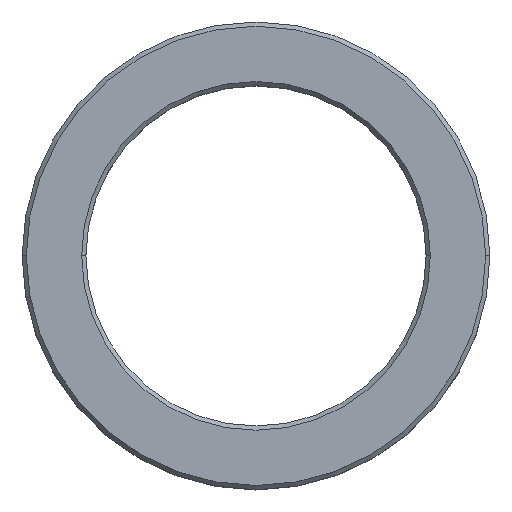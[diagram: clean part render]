
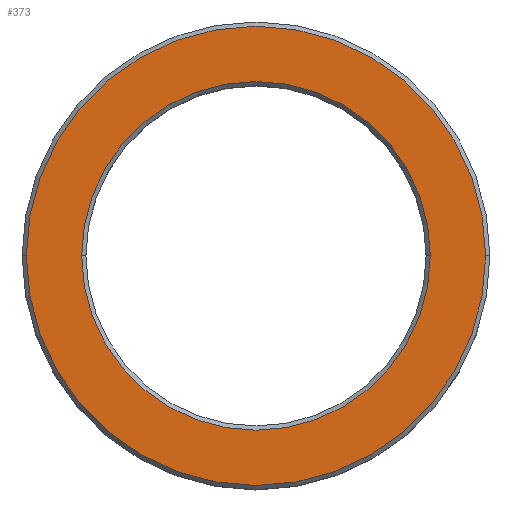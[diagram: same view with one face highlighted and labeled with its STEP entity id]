
A CAD part, top view. The second image highlights one B-rep face of the part: STEP entity #373.
In plain terms, the highlighted planar face has unit normal (0, 0, 1).
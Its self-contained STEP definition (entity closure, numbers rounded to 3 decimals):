
#19 = CARTESIAN_POINT ( 'NONE',  ( 0., 0., 17. ) ) ;
#32 = DIRECTION ( 'NONE',  ( 0., 0., -1. ) ) ;
#39 = AXIS2_PLACEMENT_3D ( 'NONE', #78, #107, #186 ) ;
#43 = CARTESIAN_POINT ( 'NONE',  ( -27., 0., 17. ) ) ;
#54 = EDGE_CURVE ( 'NONE', #128, #141, #312, .T. ) ;
#78 = CARTESIAN_POINT ( 'NONE',  ( 0., 0., 17. ) ) ;
#85 = DIRECTION ( 'NONE',  ( 1., 0., 0. ) ) ;
#92 = AXIS2_PLACEMENT_3D ( 'NONE', #378, #32, #420 ) ;
#97 = CIRCLE ( 'NONE', #382, 27. ) ;
#107 = DIRECTION ( 'NONE',  ( 0., 0., 1. ) ) ;
#113 = FACE_OUTER_BOUND ( 'NONE', #170, .T. ) ;
#121 = ORIENTED_EDGE ( 'NONE', *, *, #283, .T. ) ;
#125 = CARTESIAN_POINT ( 'NONE',  ( 0., 0., 17. ) ) ;
#128 = VERTEX_POINT ( 'NONE', #371 ) ;
#131 = ORIENTED_EDGE ( 'NONE', *, *, #54, .T. ) ;
#141 = VERTEX_POINT ( 'NONE', #322 ) ;
#159 = ORIENTED_EDGE ( 'NONE', *, *, #275, .T. ) ;
#170 = EDGE_LOOP ( 'NONE', ( #121, #159 ) ) ;
#186 = DIRECTION ( 'NONE',  ( 1., 0., 0. ) ) ;
#195 = VERTEX_POINT ( 'NONE', #43 ) ;
#210 = DIRECTION ( 'NONE',  ( 0., 0., 1. ) ) ;
#219 = CARTESIAN_POINT ( 'NONE',  ( 27., 0., 17. ) ) ;
#222 = AXIS2_PLACEMENT_3D ( 'NONE', #125, #410, #351 ) ;
#223 = EDGE_CURVE ( 'NONE', #141, #128, #335, .T. ) ;
#251 = PLANE ( 'NONE',  #429 ) ;
#275 = EDGE_CURVE ( 'NONE', #377, #195, #97, .T. ) ;
#276 = ORIENTED_EDGE ( 'NONE', *, *, #223, .T. ) ;
#283 = EDGE_CURVE ( 'NONE', #195, #377, #375, .T. ) ;
#307 = EDGE_LOOP ( 'NONE', ( #276, #131 ) ) ;
#312 = CIRCLE ( 'NONE', #92, 20.5 ) ;
#322 = CARTESIAN_POINT ( 'NONE',  ( 20.5, 0., 17. ) ) ;
#335 = CIRCLE ( 'NONE', #222, 20.5 ) ;
#351 = DIRECTION ( 'NONE',  ( 1., 0., 0. ) ) ;
#357 = DIRECTION ( 'NONE',  ( 1., 0., 0. ) ) ;
#371 = CARTESIAN_POINT ( 'NONE',  ( -20.5, 0., 17. ) ) ;
#373 = ADVANCED_FACE ( 'NONE', ( #428, #113 ), #251, .T. ) ;
#375 = CIRCLE ( 'NONE', #39, 27. ) ;
#377 = VERTEX_POINT ( 'NONE', #219 ) ;
#378 = CARTESIAN_POINT ( 'NONE',  ( 0., 0., 17. ) ) ;
#382 = AXIS2_PLACEMENT_3D ( 'NONE', #19, #394, #85 ) ;
#394 = DIRECTION ( 'NONE',  ( 0., 0., 1. ) ) ;
#395 = CARTESIAN_POINT ( 'NONE',  ( 0., 0., 17. ) ) ;
#410 = DIRECTION ( 'NONE',  ( 0., 0., -1. ) ) ;
#420 = DIRECTION ( 'NONE',  ( 1., 0., 0. ) ) ;
#428 = FACE_BOUND ( 'NONE', #307, .T. ) ;
#429 = AXIS2_PLACEMENT_3D ( 'NONE', #395, #210, #357 ) ;
